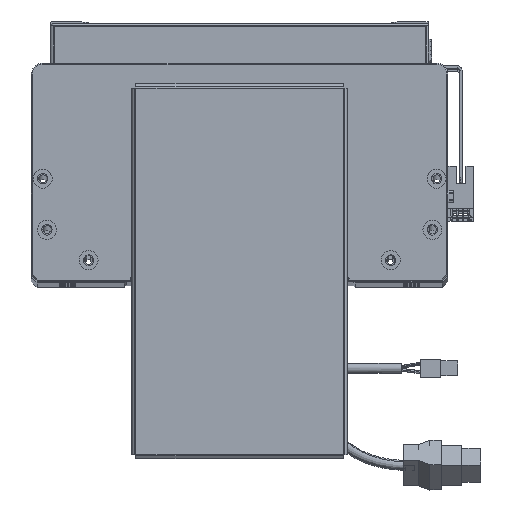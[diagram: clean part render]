
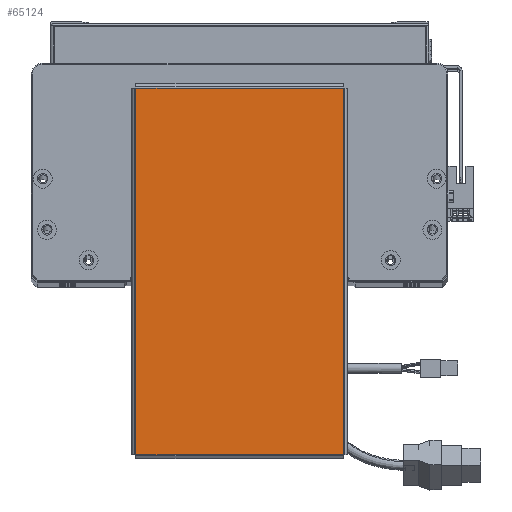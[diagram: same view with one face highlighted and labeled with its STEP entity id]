
A CAD part, top view. The second image highlights one B-rep face of the part: STEP entity #65124.
In plain terms, the highlighted planar face has unit normal (0, 0, 1).
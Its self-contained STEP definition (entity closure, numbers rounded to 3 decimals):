
#104 = EDGE_CURVE ( 'NONE', #56357, #28843, #16181, .T. ) ;
#1081 = CARTESIAN_POINT ( 'NONE',  ( -96.763, 54.763, 0. ) ) ;
#2930 = VECTOR ( 'NONE', #53997, 1000. ) ;
#4094 = LINE ( 'NONE', #13538, #44796 ) ;
#6458 = PLANE ( 'NONE',  #54564 ) ;
#7585 = VERTEX_POINT ( 'NONE', #30751 ) ;
#12094 = DIRECTION ( 'NONE',  ( 1., 0., 0. ) ) ;
#13538 = CARTESIAN_POINT ( 'NONE',  ( -96.763, 54.793, 0. ) ) ;
#16181 = LINE ( 'NONE', #32488, #2930 ) ;
#17412 = DIRECTION ( 'NONE',  ( 0., 1., 0. ) ) ;
#18000 = EDGE_LOOP ( 'NONE', ( #20603, #54519, #35302, #64701 ) ) ;
#20603 = ORIENTED_EDGE ( 'NONE', *, *, #28913, .T. ) ;
#21096 = DIRECTION ( 'NONE',  ( 1., 0., 0. ) ) ;
#25992 = CARTESIAN_POINT ( 'NONE',  ( 96.763, 54.763, 0. ) ) ;
#27134 = CARTESIAN_POINT ( 'NONE',  ( -96.793, -54.763, 0. ) ) ;
#27833 = CARTESIAN_POINT ( 'NONE',  ( -96.763, -54.763, 0. ) ) ;
#28843 = VERTEX_POINT ( 'NONE', #1081 ) ;
#28913 = EDGE_CURVE ( 'NONE', #37283, #7585, #51417, .T. ) ;
#30751 = CARTESIAN_POINT ( 'NONE',  ( 96.763, -54.763, 0. ) ) ;
#32488 = CARTESIAN_POINT ( 'NONE',  ( 96.793, 54.763, 0. ) ) ;
#33683 = DIRECTION ( 'NONE',  ( 0., -1., 0. ) ) ;
#35302 = ORIENTED_EDGE ( 'NONE', *, *, #104, .T. ) ;
#37283 = VERTEX_POINT ( 'NONE', #27833 ) ;
#43637 = DIRECTION ( 'NONE',  ( 0., 0., 1. ) ) ;
#44796 = VECTOR ( 'NONE', #33683, 1000. ) ;
#45806 = FACE_OUTER_BOUND ( 'NONE', #18000, .T. ) ;
#48620 = VECTOR ( 'NONE', #17412, 1000. ) ;
#51417 = LINE ( 'NONE', #27134, #59698 ) ;
#51866 = EDGE_CURVE ( 'NONE', #7585, #56357, #51967, .T. ) ;
#51967 = LINE ( 'NONE', #60616, #48620 ) ;
#53997 = DIRECTION ( 'NONE',  ( -1., 0., 0. ) ) ;
#54147 = CARTESIAN_POINT ( 'NONE',  ( 0., 0., 0. ) ) ;
#54519 = ORIENTED_EDGE ( 'NONE', *, *, #51866, .T. ) ;
#54564 = AXIS2_PLACEMENT_3D ( 'NONE', #54147, #43637, #12094 ) ;
#56357 = VERTEX_POINT ( 'NONE', #25992 ) ;
#59698 = VECTOR ( 'NONE', #21096, 1000. ) ;
#60616 = CARTESIAN_POINT ( 'NONE',  ( 96.763, -54.793, 0. ) ) ;
#62252 = EDGE_CURVE ( 'NONE', #28843, #37283, #4094, .T. ) ;
#64701 = ORIENTED_EDGE ( 'NONE', *, *, #62252, .T. ) ;
#65124 = ADVANCED_FACE ( 'NONE', ( #45806 ), #6458, .T. ) ;
